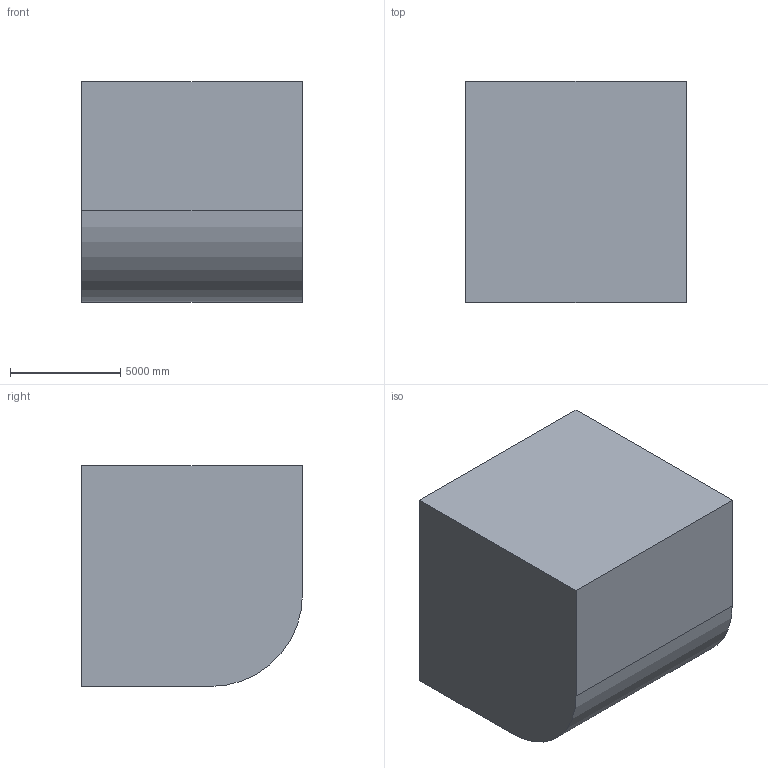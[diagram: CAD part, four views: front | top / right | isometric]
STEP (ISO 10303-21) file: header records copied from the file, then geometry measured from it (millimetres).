
FILE_DESCRIPTION (( 'STEP AP203' ), '1' );
FILE_NAME ('1015.STEP', '2022-08-18T12:25:50', ( 'user' ), ( '' ), 'SwSTEP 2.0', 'SolidWorks 2021', '' );
FILE_SCHEMA (( 'CONFIG_CONTROL_DESIGN' ));
Length unit declared in the file: centimetre
Products named in the file (1): 1015
Bounding box: 10000 x 10000 x 10000 mm (x, y, z)
Volume: 801866770861.1 mm3; surface area: 701785745.8 mm2
Topology: 1 solids, 1 shells, 14 faces, 33 edges, 22 vertices
Faces by surface type: plane 13, cylinder 1
Entity records: 476 total; most frequent: CARTESIAN_POINT 70, ORIENTED_EDGE 66, DIRECTION 65, EDGE_CURVE 33, LINE 31, VECTOR 31, VERTEX_POINT 22, AXIS2_PLACEMENT_3D 17
